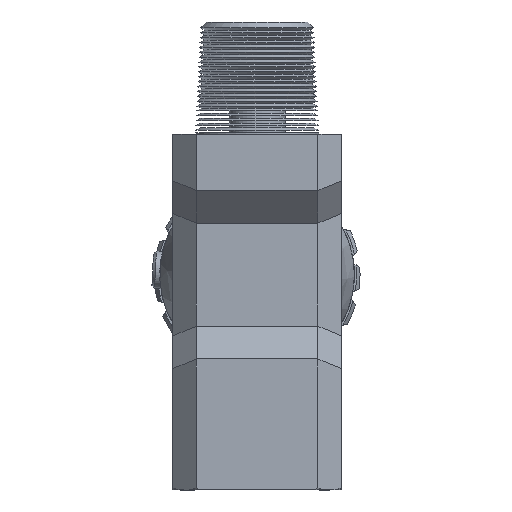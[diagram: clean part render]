
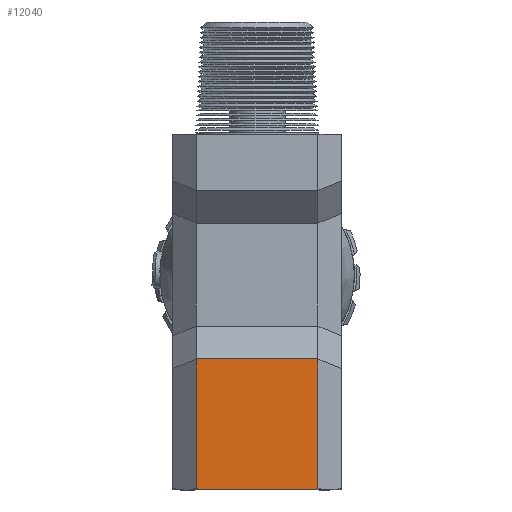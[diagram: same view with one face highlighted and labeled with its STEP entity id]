
A CAD part, front view. The second image highlights one B-rep face of the part: STEP entity #12040.
In plain terms, the highlighted planar face has unit normal (0, -1, 0).
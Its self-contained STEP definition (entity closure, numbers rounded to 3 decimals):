
#34 = LINE ( 'NONE', #9781, #11127 ) ;
#366 = ORIENTED_EDGE ( 'NONE', *, *, #9921, .T. ) ;
#624 = LINE ( 'NONE', #6840, #11046 ) ;
#1133 = DIRECTION ( 'NONE',  ( 0., 0., 1. ) ) ;
#1153 = DIRECTION ( 'NONE',  ( 0., 1., 0. ) ) ;
#1270 = CARTESIAN_POINT ( 'NONE',  ( -9., -9., 27. ) ) ;
#1715 = VERTEX_POINT ( 'NONE', #20939 ) ;
#1812 = CARTESIAN_POINT ( 'NONE',  ( -9., -9., -9. ) ) ;
#2167 = PLANE ( 'NONE',  #15096 ) ;
#2222 = CARTESIAN_POINT ( 'NONE',  ( 6.5, -9., -22.749 ) ) ;
#3907 = DIRECTION ( 'NONE',  ( 1., 0., 0. ) ) ;
#5121 = ORIENTED_EDGE ( 'NONE', *, *, #14175, .T. ) ;
#6083 = VECTOR ( 'NONE', #26896, 1000. ) ;
#6507 = DIRECTION ( 'NONE',  ( 0., 0., -1. ) ) ;
#6545 = CARTESIAN_POINT ( 'NONE',  ( 6.286, -9., -23. ) ) ;
#6840 = CARTESIAN_POINT ( 'NONE',  ( -6.5, -9., 27. ) ) ;
#9500 = VECTOR ( 'NONE', #3907, 1000. ) ;
#9781 = CARTESIAN_POINT ( 'NONE',  ( 6.5, -9., 27. ) ) ;
#9877 = DIRECTION ( 'NONE',  ( 0., 0., 1. ) ) ;
#9901 = VERTEX_POINT ( 'NONE', #23481 ) ;
#9921 = EDGE_CURVE ( 'NONE', #25783, #1715, #11236, .T. ) ;
#9954 = CARTESIAN_POINT ( 'NONE',  ( -6.5, -9., -9. ) ) ;
#10149 = LINE ( 'NONE', #1812, #9500 ) ;
#10201 = EDGE_LOOP ( 'NONE', ( #24239, #366, #17803, #5121, #15824, #25542 ) ) ;
#11046 = VECTOR ( 'NONE', #6507, 1000. ) ;
#11127 = VECTOR ( 'NONE', #9877, 1000. ) ;
#11236 = B_SPLINE_CURVE_WITH_KNOTS ( 'NONE', 3,
 ( #22665, #22708, #22441, #22407 ),
 .UNSPECIFIED., .F., .F.,
 ( 4, 4 ),
 ( 0.011, 0.011 ),
 .UNSPECIFIED. ) ;
#11361 = EDGE_CURVE ( 'NONE', #1715, #16742, #22796, .T. ) ;
#11885 = EDGE_CURVE ( 'NONE', #24730, #9901, #34, .T. ) ;
#12040 = ADVANCED_FACE ( 'NONE', ( #21651 ), #2167, .F. ) ;
#12742 = B_SPLINE_CURVE_WITH_KNOTS ( 'NONE', 3,
 ( #21208, #21482, #19260, #19168 ),
 .UNSPECIFIED., .F., .F.,
 ( 4, 4 ),
 ( 0.026, 0.027 ),
 .UNSPECIFIED. ) ;
#14175 = EDGE_CURVE ( 'NONE', #16742, #24730, #12742, .T. ) ;
#14516 = CARTESIAN_POINT ( 'NONE',  ( -9., -9., -23. ) ) ;
#15096 = AXIS2_PLACEMENT_3D ( 'NONE', #1270, #1153, #1133 ) ;
#15824 = ORIENTED_EDGE ( 'NONE', *, *, #11885, .T. ) ;
#16116 = EDGE_CURVE ( 'NONE', #17845, #25783, #624, .T. ) ;
#16742 = VERTEX_POINT ( 'NONE', #6545 ) ;
#17803 = ORIENTED_EDGE ( 'NONE', *, *, #11361, .T. ) ;
#17845 = VERTEX_POINT ( 'NONE', #9954 ) ;
#19168 = CARTESIAN_POINT ( 'NONE',  ( 6.5, -9., -22.749 ) ) ;
#19260 = CARTESIAN_POINT ( 'NONE',  ( 6.429, -9., -22.833 ) ) ;
#20939 = CARTESIAN_POINT ( 'NONE',  ( -6.286, -9., -23. ) ) ;
#21208 = CARTESIAN_POINT ( 'NONE',  ( 6.286, -9., -23. ) ) ;
#21482 = CARTESIAN_POINT ( 'NONE',  ( 6.358, -9., -22.917 ) ) ;
#21651 = FACE_OUTER_BOUND ( 'NONE', #10201, .T. ) ;
#21705 = CARTESIAN_POINT ( 'NONE',  ( -6.5, -9., -22.749 ) ) ;
#22407 = CARTESIAN_POINT ( 'NONE',  ( -6.286, -9., -23. ) ) ;
#22441 = CARTESIAN_POINT ( 'NONE',  ( -6.358, -9., -22.917 ) ) ;
#22665 = CARTESIAN_POINT ( 'NONE',  ( -6.5, -9., -22.749 ) ) ;
#22708 = CARTESIAN_POINT ( 'NONE',  ( -6.429, -9., -22.833 ) ) ;
#22796 = LINE ( 'NONE', #14516, #6083 ) ;
#23481 = CARTESIAN_POINT ( 'NONE',  ( 6.5, -9., -9. ) ) ;
#24239 = ORIENTED_EDGE ( 'NONE', *, *, #16116, .T. ) ;
#24730 = VERTEX_POINT ( 'NONE', #2222 ) ;
#25542 = ORIENTED_EDGE ( 'NONE', *, *, #26228, .F. ) ;
#25783 = VERTEX_POINT ( 'NONE', #21705 ) ;
#26228 = EDGE_CURVE ( 'NONE', #17845, #9901, #10149, .T. ) ;
#26896 = DIRECTION ( 'NONE',  ( 1., 0., 0. ) ) ;
